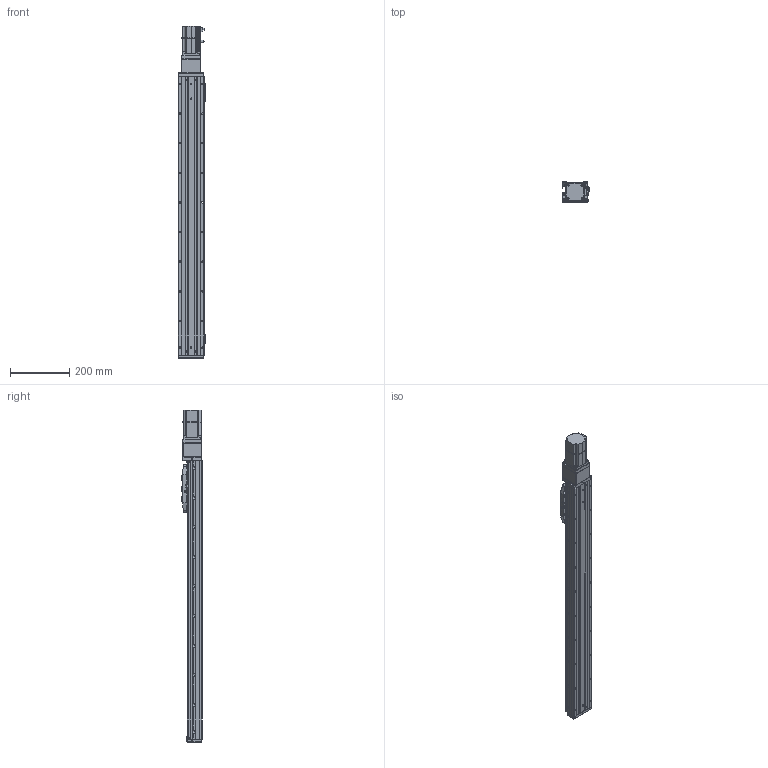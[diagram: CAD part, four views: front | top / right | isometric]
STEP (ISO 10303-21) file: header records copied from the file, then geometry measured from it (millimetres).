
FILE_DESCRIPTION (( 'STEP AP203' ), '1' );
FILE_NAME ('CTHA86-750-BC-M20-C4L.step', '2022-04-26T00:48:09', ( '微软用户' ), ( '微软中国' ), 'SwSTEP 2.0', 'SolidWorks 2020', '' );
FILE_SCHEMA (( 'CONFIG_CONTROL_DESIGN' ));
Length unit declared in the file: millimetre
Products named in the file (22): GBT 70.1-M3×20; CTHA86-006-1_CTHA86-006-2; KTHA86-005; GBT70.1 M5℅16; _X2_4E0983F1_X0_200W_1; GB¨uT 70.2-M3¡Á5_M3¡Á6; GBT 70.1-M3×16; GBT 70.3-M3℅6; EE_SX911P_R; GBT 70.1-M3℅6; CTHA86-002; CTHA60-017; CTHA60-016; CTHA86-031; CTHA60-021; CTHA86-013; CTHA86-030; KTHA86-001_940; GBT77-2000 M3×3; CTHA86-027; CTHA86-750-BC-M20-C4L; KTHA86-004
Assembly tree (65 placements, depth 2):
  CTHA86-750-BC-M20-C4L
    KTHA86-001_940
    KTHA86-004
    KTHA86-005
    GB¨uT 70.2-M3¡Á5_M3¡Á6  x10
    EE_SX911P_R  x3
    CTHA60-017  x3
    CTHA60-021  x2
    GBT77-2000 M3×3  x6
    GBT 70.1-M3×20
    GBT70.1 M5℅16  x14
    GBT 70.1-M3×16
    GBT 70.1-M3℅6  x6
    CTHA60-016  x2
    CTHA86-013
    CTHA86-027
    CTHA86-006-1_CTHA86-006-2
    _X2_4E0983F1_X0_200W_1
    GBT 70.3-M3℅6  x6
    CTHA86-002
    CTHA86-031
    CTHA86-030  x2
Bounding box: 93.82 x 68 x 1120.5 mm (x, y, z)
Volume: 3718288.5 mm3; surface area: 653451.7 mm2
Topology: 67 solids, 67 shells, 2754 faces, 6583 edges, 4048 vertices
Faces by surface type: plane 1440, cylinder 709, cone 392, torus 120, bspline 69, sphere 24
Entity records: 48921 total; most frequent: CARTESIAN_POINT 9072, DIRECTION 7708, ORIENTED_EDGE 7422, EDGE_CURVE 3711, AXIS2_PLACEMENT_3D 2620, VECTOR 2468, LINE 2468, VERTEX_POINT 2326
